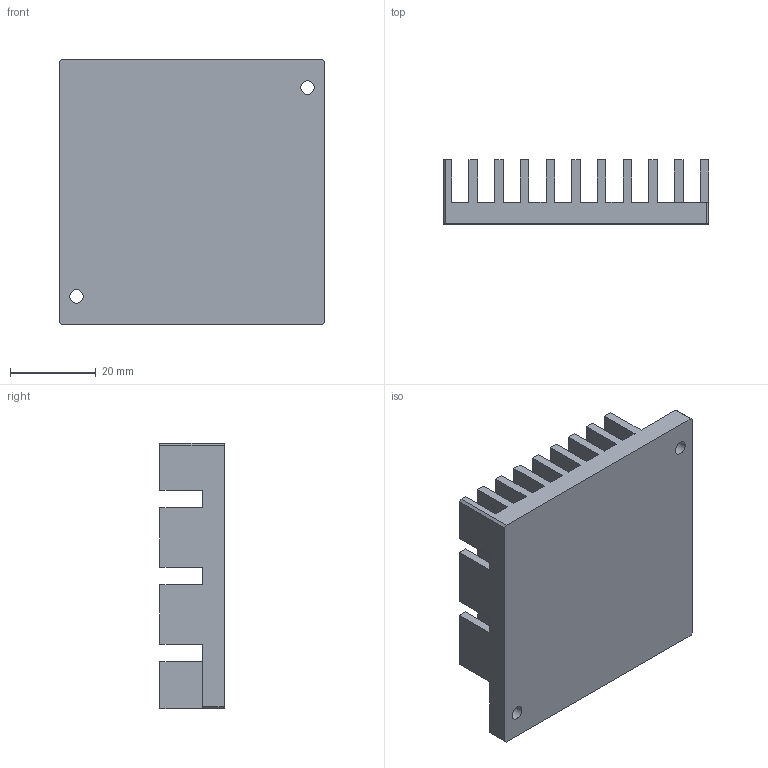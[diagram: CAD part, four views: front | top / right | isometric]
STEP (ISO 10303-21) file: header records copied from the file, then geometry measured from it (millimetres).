
FILE_DESCRIPTION(('Open CASCADE Model'),'2;1');
FILE_NAME('Open CASCADE Shape Model','2026-03-05T13:39:59',('Author'),( 'Open CASCADE'),'Open CASCADE STEP processor 7.5','Open CASCADE 7.5' ,'Unknown');
FILE_SCHEMA(('AUTOMOTIVE_DESIGN { 1 0 10303 214 1 1 1 1 }'));
Length unit declared in the file: millimetre
Products named in the file (3): PCB; Part854
Assembly tree (1 placements, depth 2):
  PCB
  Part854
    Part854
Bounding box: 62 x 15 x 62 mm (x, y, z)
Volume: 29254.6 mm3; surface area: 20703.6 mm2
Topology: 1 solids, 1 shells, 188 faces, 504 edges, 336 vertices
Faces by surface type: plane 186, cylinder 2
Full cylindrical faces by diameter (mm): 3.2 x2
Entity records: 7490 total; most frequent: CARTESIAN_POINT 1032, ORIENTED_EDGE 1008, DIRECTION 886, EDGE_CURVE 504, LINE 498, VECTOR 498, VERTEX_POINT 336, FACE_BOUND 210
